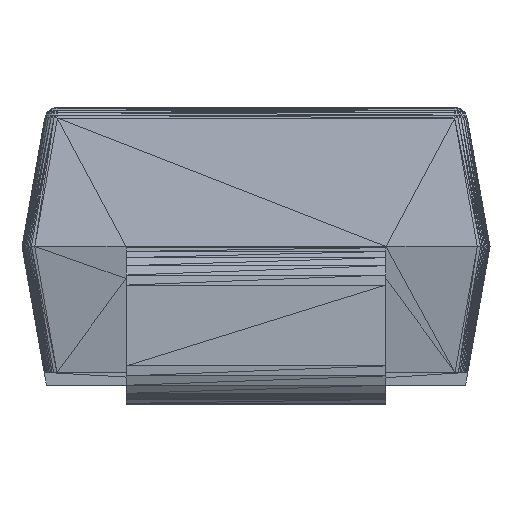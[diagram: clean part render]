
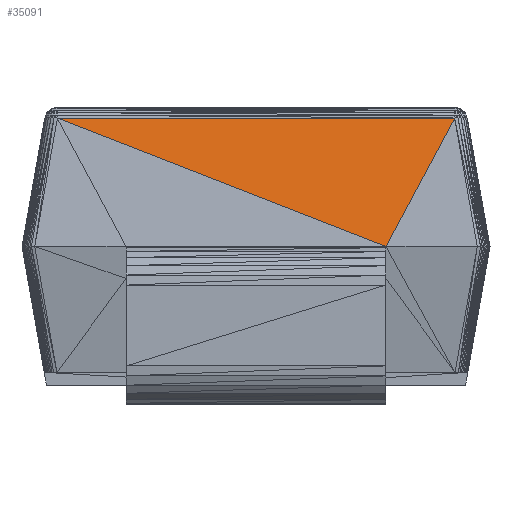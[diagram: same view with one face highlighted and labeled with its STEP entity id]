
A CAD part, left-side view. The second image highlights one B-rep face of the part: STEP entity #35091.
In plain terms, the highlighted planar face has unit normal (-0.985, 0, 0.174).
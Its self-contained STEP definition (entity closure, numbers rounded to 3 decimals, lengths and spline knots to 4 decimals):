
#26581=CARTESIAN_POINT('',(-2.2,-1.005,0.0));
#26582=VERTEX_POINT('',#26581);
#26655=CARTESIAN_POINT('',(-2.025,-1.5365,0.9924));
#26656=VERTEX_POINT('',#26655);
#26657=CARTESIAN_POINT('',(-2.025,1.5365,0.9924));
#26658=VERTEX_POINT('',#26657);
#35061=DIRECTION('',(-0.154,0.467,-0.871));
#35062=VECTOR('',#35061,1000.0);
#35063=LINE('',#26655,#35062);
#35064=EDGE_CURVE('',#26656,#26582,#35063,.T.);
#35074=DIRECTION('',(0.0,1.0,0.0));
#35075=VECTOR('',#35074,1000.0);
#35076=LINE('',#26655,#35075);
#35077=EDGE_CURVE('',#26656,#26658,#35076,.T.);
#35078=DIRECTION('',(-0.064,-0.93,-0.363));
#35079=VECTOR('',#35078,1000.0);
#35080=LINE('',#26657,#35079);
#35081=EDGE_CURVE('',#26658,#26582,#35080,.T.);
#35082=ORIENTED_EDGE('',*,*,#35064,.F.);
#35083=ORIENTED_EDGE('',*,*,#35077,.T.);
#35084=ORIENTED_EDGE('',*,*,#35081,.T.);
#35085=DIRECTION('',(-0.985,0.0,0.174));
#35086=DIRECTION('',(0.154,-0.467,0.871));
#35087=AXIS2_PLACEMENT_3D('',#26581,#35085,#35086);
#35088=PLANE('',#35087);
#35089=EDGE_LOOP('',(#35082,#35083,#35084));
#35090=FACE_BOUND('',#35089,.T.);
#35091=ADVANCED_FACE('',(#35090),#35088,.T.);
